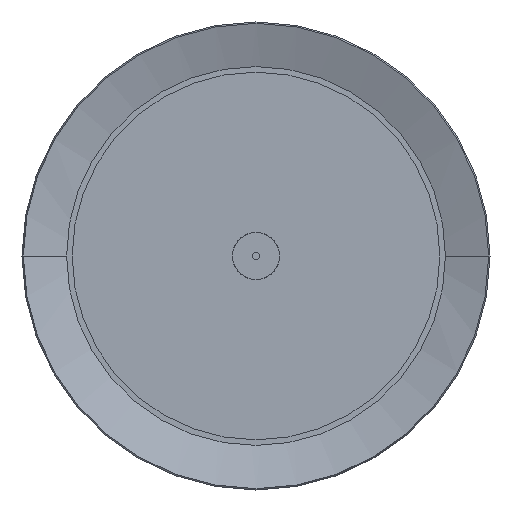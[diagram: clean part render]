
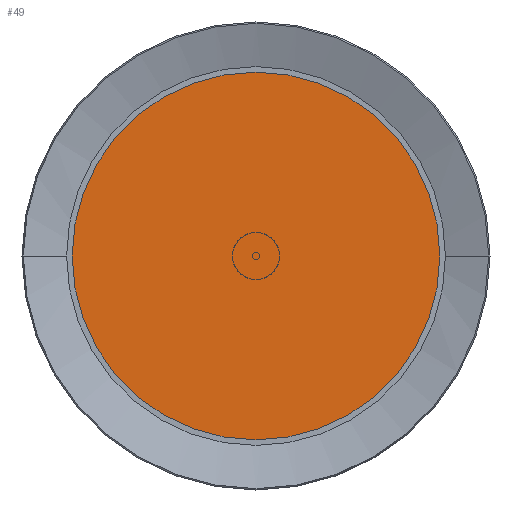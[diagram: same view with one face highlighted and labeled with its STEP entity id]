
A CAD part, front view. The second image highlights one B-rep face of the part: STEP entity #49.
In plain terms, the highlighted planar face has unit normal (0, -1, 0).
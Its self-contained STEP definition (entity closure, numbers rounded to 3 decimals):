
#2=CARTESIAN_POINT('',(0.,0.,0.));
#3=DIRECTION('',(0.,1.,0.));
#4=DIRECTION('',(1.,0.,0.));
#5=AXIS2_PLACEMENT_3D('',#2,#3,#4);
#7=CARTESIAN_POINT('',(0.,0.,0.));
#8=DIRECTION('',(0.,1.,0.));
#9=DIRECTION('',(-1.,0.,0.));
#10=AXIS2_PLACEMENT_3D('',#7,#8,#9);
#30=CARTESIAN_POINT('',(165.,0.,0.));
#31=CARTESIAN_POINT('',(-165.,0.,0.));
#32=VERTEX_POINT('',#30);
#33=VERTEX_POINT('',#31);
#38=CARTESIAN_POINT('',(0.,0.,0.));
#39=DIRECTION('',(0.,1.,0.));
#40=DIRECTION('',(1.,0.,0.));
#41=AXIS2_PLACEMENT_3D('',#38,#39,#40);
#42=PLANE('',#41);
#44=ORIENTED_EDGE('',*,*,#43,.T.);
#46=ORIENTED_EDGE('',*,*,#45,.T.);
#47=EDGE_LOOP('',(#44,#46));
#48=FACE_OUTER_BOUND('',#47,.F.);
#49=ADVANCED_FACE('',(#48),#42,.F.);
#6=CIRCLE('',#5,165.);
#11=CIRCLE('',#10,165.);
#43=EDGE_CURVE('',#32,#33,#6,.T.);
#45=EDGE_CURVE('',#33,#32,#11,.T.);
